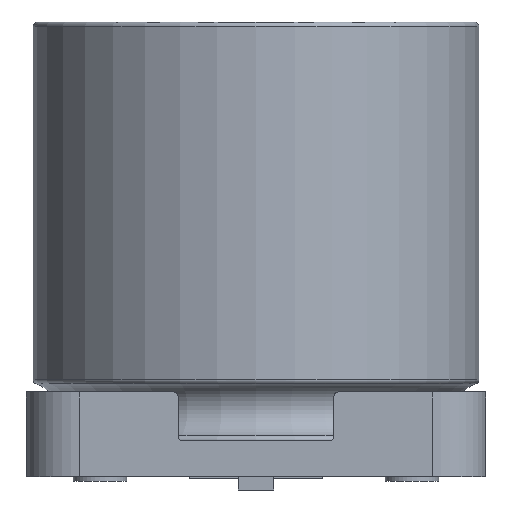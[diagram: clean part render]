
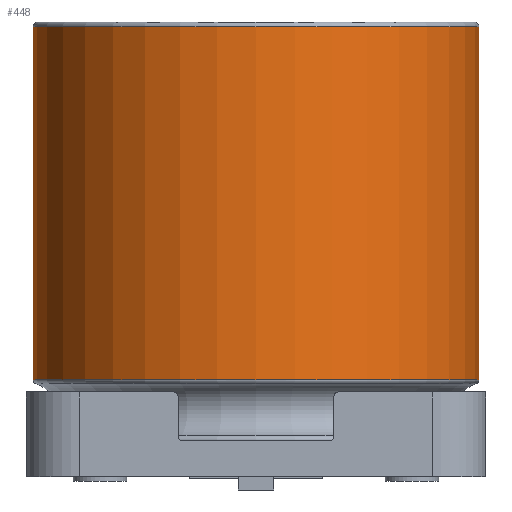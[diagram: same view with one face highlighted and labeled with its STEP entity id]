
A CAD part, left-side view. The second image highlights one B-rep face of the part: STEP entity #448.
In plain terms, the highlighted cylindrical face has radius 5 mm (diameter 10 mm), a full revolution.
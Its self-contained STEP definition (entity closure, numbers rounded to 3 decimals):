
#220=CYLINDRICAL_SURFACE('',#2509,5.);
#448=ADVANCED_FACE('',(#602,#603),#220,.T.);
#602=FACE_BOUND('',#680,.T.);
#603=FACE_BOUND('',#681,.T.);
#680=EDGE_LOOP('',(#1139));
#681=EDGE_LOOP('',(#1140));
#802=CIRCLE('',#2507,5.);
#803=CIRCLE('',#2508,5.);
#1139=ORIENTED_EDGE('',*,*,#1860,.T.);
#1140=ORIENTED_EDGE('',*,*,#1861,.T.);
#1609=VERTEX_POINT('',#3786);
#1610=VERTEX_POINT('',#3788);
#1860=EDGE_CURVE('',#1609,#1609,#802,.T.);
#1861=EDGE_CURVE('',#1610,#1610,#803,.T.);
#2507=AXIS2_PLACEMENT_3D('',#3785,#2935,#2936);
#2508=AXIS2_PLACEMENT_3D('',#3787,#2937,#2938);
#2509=AXIS2_PLACEMENT_3D('',#3789,#2939,#2940);
#2935=DIRECTION('',(0.,0.,1.));
#2936=DIRECTION('',(1.,0.,0.));
#2937=DIRECTION('',(0.,0.,-1.));
#2938=DIRECTION('',(-1.,0.,0.));
#2939=DIRECTION('',(0.,0.,-1.));
#2940=DIRECTION('',(-1.,0.,0.));
#3785=CARTESIAN_POINT('',(0.,0.,2.178));
#3786=CARTESIAN_POINT('',(5.,0.,2.178));
#3787=CARTESIAN_POINT('',(0.,0.,10.1));
#3788=CARTESIAN_POINT('',(-5.,0.,10.1));
#3789=CARTESIAN_POINT('',(0.,0.,0.));
